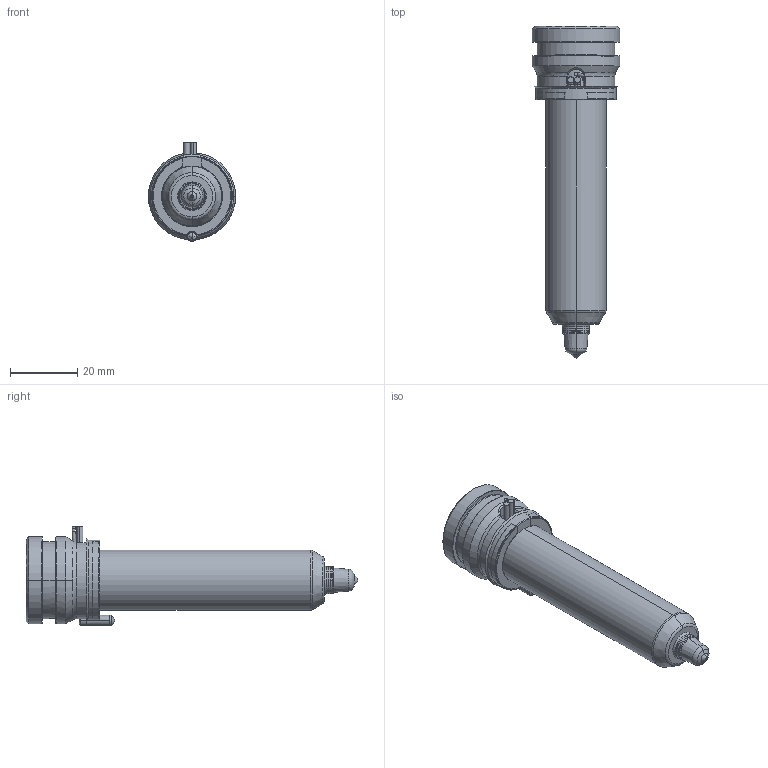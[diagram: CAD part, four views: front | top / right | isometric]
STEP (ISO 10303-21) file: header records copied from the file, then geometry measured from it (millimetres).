
FILE_DESCRIPTION((''),'2;1');
FILE_NAME('TH18081-A-1B50-PK-JG','2023-12-14T',('umhib'),('Thermoplay S.p.A.'),'PRO/ENGINEER BY PARAMETRIC TECHNOLOGY CORPORATION, 2017170','PRO/ENGINEER BY PARAMETRIC TECHNOLOGY CORPORATION, 2017170','');
FILE_SCHEMA(('CONFIG_CONTROL_DESIGN'));
Length unit declared in the file: millimetre
Products named in the file (1): TH18081-A-1B50-PK-JG
Bounding box: 26 x 99 x 29.5 mm (x, y, z)
Volume: 20551.6 mm3; surface area: 15073.1 mm2
Topology: 1 solids, 2 shells, 394 faces, 1026 edges, 637 vertices
Faces by surface type: cylinder 151, plane 85, cone 66, torus 54, bspline 24, sphere 12, extrusion 2
Entity records: 18000 total; most frequent: CARTESIAN_POINT 6177, ORIENTED_EDGE 2028, DIRECTION 2015, EDGE_CURVE 1016, AXIS2_PLACEMENT_3D 808, VERTEX_POINT 637, CIRCLE 439, EDGE_LOOP 414
